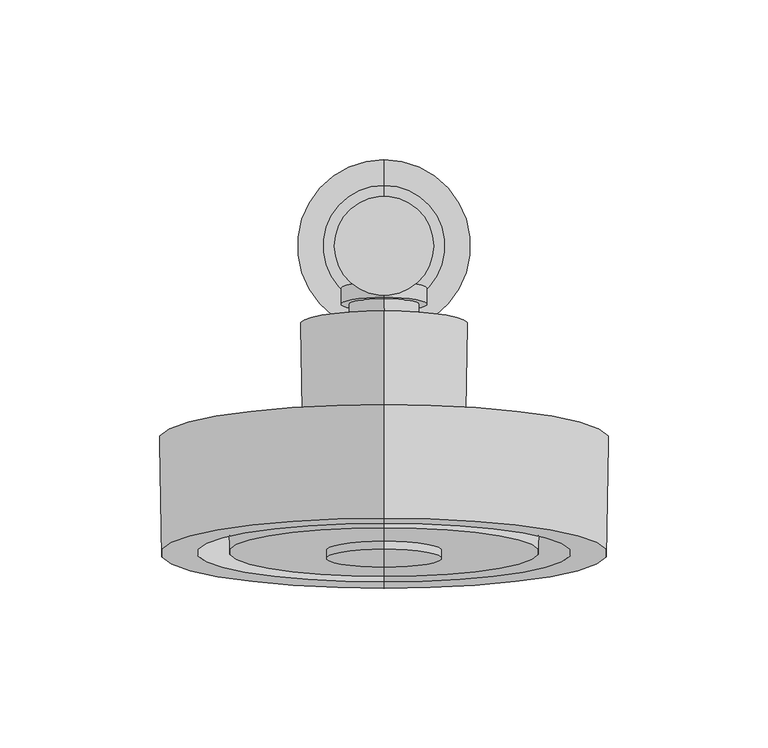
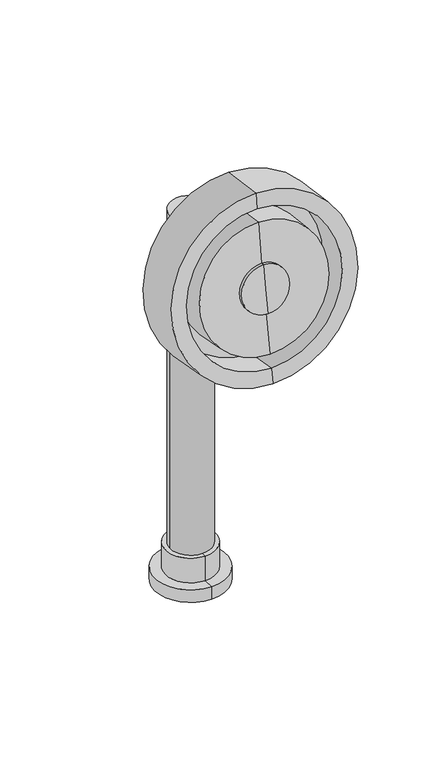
"""IFC4 building model written with IfcOpenShell, lengths in millimetres: flow terminal geometry, Chuveiro : Chuveiro."""

import ifcopenshell
import ifcopenshell.guid

model = None  # the IFC model being written
_history = None  # IfcOwnerHistory: only IFC2X3 demands one
_inside = {}  # id of a spatial element -> (the spatial element, [elements in it])
_under = {}  # id of a project, library or spatial element -> (it, [spatial elements below it])
_declared = {}  # id of a project -> (the project, [libraries it declares])
_typed = {}  # id of a type object -> (the type object, [elements of that type])
_made_of = {}  # id of a material, layer set ... -> (it, [elements and type objects made of it])


def new_model(schema):
    """Start an empty IFC model of exactly this schema.

    Asked for "IFC4X3", IfcOpenShell would pick the latest addendum, in which some entities
    have other attributes; the version numbers below select the first issue.
    IFC2X3 requires an IfcOwnerHistory on every rooted entity: one is made here for all.
    """
    global model, _history
    if schema == "IFC4X3":
        model = ifcopenshell.file(schema_version=(4, 3, 0, 0))
    else:
        model = ifcopenshell.file(schema=schema)
    _inside.clear()
    _under.clear()
    _declared.clear()
    _typed.clear()
    _made_of.clear()
    _history = None
    if model.schema == "IFC2X3":
        org = make("IfcOrganization", Name="unknown")
        user = make(
            "IfcPersonAndOrganization",
            ThePerson=make("IfcPerson", FamilyName="unknown"),
            TheOrganization=org,
        )
        app = make(
            "IfcApplication",
            ApplicationDeveloper=org,
            Version="unknown",
            ApplicationFullName="unknown",
            ApplicationIdentifier="unknown",
        )
        _history = make(
            "IfcOwnerHistory",
            OwningUser=user,
            OwningApplication=app,
            ChangeAction="ADDED",
            CreationDate=0,
        )
    return model


def make(cls, **values):
    """One entity of the class cls with the attributes given. An attribute that is None is left unset."""
    return model.create_entity(
        cls, **{name: value for name, value in values.items() if value is not None}
    )


def rooted(cls, **values):
    """An entity with a GlobalId (a new one), such as an element, a storey or a relation."""
    return make(cls, GlobalId=ifcopenshell.guid.new(), OwnerHistory=_history, **values)


def si_unit(unit_type, name, prefix=None):
    """IfcSIUnit, for example si_unit("LENGTHUNIT", "METRE", prefix="MILLI")."""
    return make("IfcSIUnit", UnitType=unit_type, Prefix=prefix, Name=name)


def assignment(units):
    """IfcUnitAssignment: the units of a project."""
    return None if units is None else make("IfcUnitAssignment", Units=units)


def point(xyz):
    """IfcCartesianPoint."""
    return None if xyz is None else make("IfcCartesianPoint", Coordinates=xyz)


def direction(xyz):
    """IfcDirection."""
    return None if xyz is None else make("IfcDirection", DirectionRatios=xyz)


def frame(location, z_axis=None, x_axis=None):
    """IfcAxis2Placement3D, a coordinate frame: its origin and axes. An axis left out is left unset."""
    return make(
        "IfcAxis2Placement3D",
        Location=point(location),
        Axis=direction(z_axis),
        RefDirection=direction(x_axis),
    )


def frame_2d(location, x_axis=None):
    """IfcAxis2Placement2D, a coordinate frame in the plane: its origin and x axis."""
    return make(
        "IfcAxis2Placement2D", Location=point(location), RefDirection=direction(x_axis)
    )


def origin():
    """The frame at (0, 0, 0) with its axes left unset."""
    return frame((0.0, 0.0, 0.0))


def origin_2d():
    """The frame at (0, 0) in the plane with its x axis left unset."""
    return frame_2d((0.0, 0.0))


def place(relative_to, where):
    """IfcLocalPlacement: puts the frame where relative to a parent placement (None: the world)."""
    return make(
        "IfcLocalPlacement", PlacementRelTo=relative_to, RelativePlacement=where
    )


def context(
    kind, dimensions, precision=None, world=None, true_north=None, identifier=None
):
    """IfcGeometricRepresentationContext, for example the 3D "Model" context."""
    return make(
        "IfcGeometricRepresentationContext",
        ContextIdentifier=identifier,
        ContextType=kind,
        CoordinateSpaceDimension=dimensions,
        Precision=precision,
        WorldCoordinateSystem=world,
        TrueNorth=true_north,
    )


def project(units=None, contexts=None):
    """IfcProject with its units and contexts."""
    return rooted(
        "IfcProject",
        Name="project",
        RepresentationContexts=contexts,
        UnitsInContext=assignment(units),
    )


def spatial(cls, under=None, at=None, **own):
    """A site, building, storey or space (cls), placed at a placement, below another one or the project."""
    s = rooted(cls, ObjectPlacement=at, **own)
    if under is not None:
        _under.setdefault(under.id(), (under, []))[1].append(s)
    return s


def polyline(points):
    """IfcPolyline through the points."""
    return make("IfcPolyline", Points=[point(p) for p in points])


def circle_curve(where, radius):
    """IfcCircle in the frame where."""
    return make("IfcCircle", Position=where, Radius=radius)


def trimmed(basis, trim1, trim2, sense, master):
    """IfcTrimmedCurve: the piece of a basis curve between two trims."""
    return make(
        "IfcTrimmedCurve",
        BasisCurve=basis,
        Trim1=trim1,
        Trim2=trim2,
        SenseAgreement=sense,
        MasterRepresentation=master,
    )


def segment(curve, same_sense, transition):
    """IfcCompositeCurveSegment."""
    return make(
        "IfcCompositeCurveSegment",
        Transition=transition,
        SameSense=same_sense,
        ParentCurve=curve,
    )


def composite_curve(segments, self_intersect=None):
    """IfcCompositeCurve: segments joined end to end."""
    return make("IfcCompositeCurve", Segments=segments, SelfIntersect=self_intersect)


def outline(outer, holes=None, kind="AREA"):
    """IfcArbitraryClosedProfileDef: a profile drawn as a closed curve; with holes, ...WithVoids."""
    if holes is None:
        return make("IfcArbitraryClosedProfileDef", ProfileType=kind, OuterCurve=outer)
    return make(
        "IfcArbitraryProfileDefWithVoids",
        ProfileType=kind,
        OuterCurve=outer,
        InnerCurves=holes,
    )


def extrude(swept, where, along, depth):
    """IfcExtrudedAreaSolid: the profile swept, set in the frame where, extruded along a direction by depth."""
    return make(
        "IfcExtrudedAreaSolid",
        SweptArea=swept,
        Position=where,
        ExtrudedDirection=direction(along),
        Depth=depth,
    )


def shape(context_of_items, identifier, shape_type, items):
    """IfcShapeRepresentation: the items that make up one representation, for example the "Body"."""
    return make(
        "IfcShapeRepresentation",
        ContextOfItems=context_of_items,
        RepresentationIdentifier=identifier,
        RepresentationType=shape_type,
        Items=items,
    )


def source(mapping_origin, context_of_items, identifier, shape_type, items):
    """IfcRepresentationMap: a shape defined once, which mapped items show again and again."""
    return make(
        "IfcRepresentationMap",
        MappingOrigin=mapping_origin,
        MappedRepresentation=shape(context_of_items, identifier, shape_type, items),
    )


def transform(
    local_origin,
    x_axis=None,
    y_axis=None,
    z_axis=None,
    scale=None,
    scale2=None,
    scale3=None,
    uniform=True,
):
    """IfcCartesianTransformationOperator3D, or its non-uniform kind. x_axis, y_axis, z_axis: its Axis1, 2, 3."""
    if uniform:
        return make(
            "IfcCartesianTransformationOperator3D",
            Axis1=direction(x_axis),
            Axis2=direction(y_axis),
            LocalOrigin=point(local_origin),
            Scale=scale,
            Axis3=direction(z_axis),
        )
    return make(
        "IfcCartesianTransformationOperator3DnonUniform",
        Axis1=direction(x_axis),
        Axis2=direction(y_axis),
        LocalOrigin=point(local_origin),
        Scale=scale,
        Axis3=direction(z_axis),
        Scale2=scale2,
        Scale3=scale3,
    )


def mapped(mapping_source, mapping_target):
    """IfcMappedItem: shows the shape of a source again, moved by a transform."""
    return make(
        "IfcMappedItem", MappingSource=mapping_source, MappingTarget=mapping_target
    )


def made_of(thing, what):
    """Note that an element or type object is made of a material, layer set ...; save() writes the relation."""
    if what is not None:
        _made_of.setdefault(what.id(), (what, []))[1].append(thing)
    return thing


def element(
    cls,
    number,
    at=None,
    inside=None,
    cuts=None,
    type_object=None,
    material=None,
    context=None,
    identifier="Body",
    shape_type=None,
    held_by="IfcProductDefinitionShape",
    body=None,
    shapes=None,
    **own,
):
    """One element of the class cls, such as IfcWall. Its Tag is "e" and its number.

    at: its placement. inside: the storey or other place that contains it. cuts: it is an
    opening in that element (IfcRelVoidsElement). A single representation is given by context,
    identifier, shape_type and body (its items); several are given by shapes. held_by: the class
    of the entity that holds the representations. save() writes the other relations.
    """
    e = rooted(cls, Tag="e%d" % number, ObjectPlacement=at, **own)
    if body is not None:
        shapes = [shape(context, identifier, shape_type, body)]
    if shapes is not None:
        e.Representation = make(held_by, Representations=shapes)
    if inside is not None:
        _inside.setdefault(inside.id(), (inside, []))[1].append(e)
    if cuts is not None:
        rooted(
            "IfcRelVoidsElement", RelatingBuildingElement=cuts, RelatedOpeningElement=e
        )
    if type_object is not None:
        _typed.setdefault(type_object.id(), (type_object, []))[1].append(e)
    return made_of(e, material)


def aggregate(whole, parts):
    """IfcRelAggregates: a whole, such as a stair, and the parts it consists of."""
    return rooted("IfcRelAggregates", RelatingObject=whole, RelatedObjects=parts)


def save(model, path):
    """Write the relations noted so far, then the file.

    IfcRelAggregates (storeys below a building ...), IfcRelContainedInSpatialStructure (elements
    in a storey), IfcRelDefinesByType, IfcRelAssociatesMaterial and IfcRelDeclares: one each for
    every whole, place, type object, material and project.
    """
    for whole, parts in _under.values():
        aggregate(whole, parts)
    for where, things in _inside.values():
        rooted(
            "IfcRelContainedInSpatialStructure",
            RelatedElements=things,
            RelatingStructure=where,
        )
    for kind, things in _typed.values():
        rooted("IfcRelDefinesByType", RelatedObjects=things, RelatingType=kind)
    for what, things in _made_of.values():
        rooted("IfcRelAssociatesMaterial", RelatedObjects=things, RelatingMaterial=what)
    for by, libraries in _declared.values():
        rooted("IfcRelDeclares", RelatingContext=by, RelatedDefinitions=libraries)
    model.write(path)


def plane_surface(at):
    """IfcPlane: the flat surface through the origin of the frame at, square to its z axis."""
    return make("IfcPlane", Position=at)


def cylinder_surface(at, radius):
    """IfcCylindricalSurface: all points at the distance radius from the z axis of the frame at."""
    return make("IfcCylindricalSurface", Position=at, Radius=radius)


def revolved_surface(curve, axis_point, axis_direction):
    """IfcSurfaceOfRevolution: the curve turned about the line through axis_point along axis_direction."""
    return make(
        "IfcSurfaceOfRevolution",
        SweptCurve=make("IfcArbitraryOpenProfileDef", ProfileType="CURVE", Curve=curve),
        AxisPosition=make("IfcAxis1Placement", Location=point(axis_point), Axis=direction(axis_direction)),
    )


def advanced_brep(points, edges, surfaces, faces):
    """IfcAdvancedBrep: a solid bounded by faces that lie on surfaces and meet in shared edges.

    An edge is (start, end): straight between two places in points (the first is 0);
    or (start, end, curve); or (start, end, curve, False) where it runs against its curve.
    A face is (place in surfaces, loops), or (place, loops, False) where it looks against
    its surface's normal. A loop lists edges by number (the first is 1), with a minus sign
    where the edge is run from its end to its start. The first loop is the outer one.
    """
    corners = [point(p) for p in points]
    vertices = [make("IfcVertexPoint", VertexGeometry=c) for c in corners]
    made = []
    for start, end, *more in edges:
        made.append(
            make(
                "IfcEdgeCurve",
                EdgeStart=vertices[start],
                EdgeEnd=vertices[end],
                EdgeGeometry=more[0] if more else make("IfcPolyline", Points=[corners[start], corners[end]]),
                SameSense=more[1] if len(more) > 1 else True,
            )
        )
    hull = []
    for where, loops, *sense in faces:
        bounds = []
        for j, loop in enumerate(loops):
            ring = [make("IfcOrientedEdge", EdgeElement=made[abs(k) - 1], Orientation=k > 0) for k in loop]
            bounds.append(
                make(
                    "IfcFaceOuterBound" if j == 0 else "IfcFaceBound",
                    Bound=make("IfcEdgeLoop", EdgeList=ring),
                    Orientation=True,
                )
            )
        hull.append(make("IfcAdvancedFace", Bounds=bounds, FaceSurface=surfaces[where], SameSense=sense[0] if sense else True))
    return make("IfcAdvancedBrep", Outer=make("IfcClosedShell", CfsFaces=hull))


def flow_terminal_20a74c16(model_context):
    return source(origin(), model_context, "Body", "SolidModel", [
        extrude(outline(composite_curve([segment(trimmed(circle_curve(origin_2d(), 15.5187607), [point((-15.5187607, 0.0))], [point((15.5187607, 0.0))], False, "CARTESIAN"), True, "CONTINUOUS"), segment(trimmed(circle_curve(origin_2d(), 15.5187607), [point((15.5187607, 0.0))], [point((-15.5187607, 0.0))], False, "CARTESIAN"), True, "CONTINUOUS")], self_intersect=False)), frame((0.0, 0.0, 29.5), z_axis=(0.0, 0.0, 1.0), x_axis=(1.0, 0.0, 0.0)), (0.0, 0.0, 1.0), 264.783134),
        advanced_brep(
        [(0.0, -95.1040341, 307.3807444), (0.0, -100.737278, 271.813842), (0.0, -97.6102448, 289.5481289), (0.0, -92.6191061, 307.0315106), (0.0, -98.2660519, 271.3780982), (0.0, -85.3837645, 358.5136417), (0.0, -107.2936865, 220.1798384), (0.0, -105.3062413, 231.4512002), (0.0, -86.9766341, 347.1797852), (0.0, -49.7433718, 353.5047111), (0.0, -71.8498141, 213.9301274), (0.0, -56.0065285, 308.9400351), (0.0, -64.0351879, 258.2490748), (0.0, -20.3568781, 303.9298035), (0.0, -28.5821088, 251.9977404), (0.0, -22.5013907, 288.6708029), (0.0, -25.9063711, 267.1726031), (0.0, -16.5875824, 287.7341477), (0.0, -19.9925628, 266.2359479), (0.0, -16.1871919, 290.2621139), (0.0, -20.3929533, 263.7079817), (0.0, -11.2678388, 289.5711425), (0.0, -15.5008485, 262.8449708), (0.0, -13.1500279, 276.1709447), (0.0, -88.3680691, 337.2792105), (0.0, -103.5701288, 241.2971833), (0.0, -61.8640112, 333.5543081), (0.0, -77.2122137, 236.6495717), (0.0, -60.4730671, 343.4570994), (0.0, -78.949478, 226.8016322)],
        [
            (0, 1, circle_curve(frame((0.0, -97.9206561, 289.5972932), z_axis=(0.0, -0.9876883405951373, 0.15643446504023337), x_axis=(0.0, -0.15643446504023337, -0.9876883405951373)), 18.0051242)),
            (1, 2),
            (2, 0),
            (1, 0, circle_curve(frame((0.0, -97.9206561, 289.5972932), z_axis=(0.0, -0.9876883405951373, 0.15643446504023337), x_axis=(0.0, -0.15643446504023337, -0.9876883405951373)), 18.0051242)),
            (3, 4, circle_curve(frame((0.0, -95.442579, 289.2048044), z_axis=(0.0, -0.9876883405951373, 0.15643446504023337), x_axis=(0.0, -0.15643446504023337, -0.9876883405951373)), 18.0489183)),
            (4, 1),
            (0, 3),
            (4, 3, circle_curve(frame((0.0, -95.442579, 289.2048044), z_axis=(0.0, -0.9876883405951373, 0.15643446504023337), x_axis=(0.0, -0.15643446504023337, -0.9876883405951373)), 18.0489183)),
            (5, 6, circle_curve(frame((0.0, -96.3387255, 289.34674), z_axis=(0.0, -0.9876883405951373, 0.15643446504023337), x_axis=(0.0, -0.15643446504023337, -0.9876883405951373)), 70.0290758)),
            (6, 7),
            (7, 8, circle_curve(frame((0.0, -96.1414377, 289.3154927), z_axis=(0.0, 0.9876883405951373, -0.15643446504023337), x_axis=(0.0, -0.15643446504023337, -0.9876883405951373)), 58.5855782)),
            (8, 5),
            (6, 5, circle_curve(frame((0.0, -96.3387255, 289.34674), z_axis=(0.0, -0.9876883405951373, 0.15643446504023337), x_axis=(0.0, -0.15643446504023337, -0.9876883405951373)), 70.0290758)),
            (8, 7, circle_curve(frame((0.0, -96.1414377, 289.3154927), z_axis=(0.0, 0.9876883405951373, -0.15643446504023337), x_axis=(0.0, -0.15643446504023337, -0.9876883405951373)), 58.5855782)),
            (9, 10, circle_curve(frame((0.0, -60.7965929, 283.7174192), z_axis=(0.0, -0.9876883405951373, 0.15643446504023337), x_axis=(0.0, -0.15643446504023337, -0.9876883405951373)), 70.6571992)),
            (10, 6),
            (5, 9),
            (10, 9, circle_curve(frame((0.0, -60.7965929, 283.7174192), z_axis=(0.0, -0.9876883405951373, 0.15643446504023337), x_axis=(0.0, -0.15643446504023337, -0.9876883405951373)), 70.6571992)),
            (11, 12, circle_curve(frame((0.0, -60.0208582, 283.5945549), z_axis=(0.0, -0.9876883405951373, 0.15643446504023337), x_axis=(0.0, -0.15643446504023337, -0.9876883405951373)), 25.6614148)),
            (12, 10),
            (9, 11),
            (12, 11, circle_curve(frame((0.0, -60.0208582, 283.5945549), z_axis=(0.0, -0.9876883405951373, 0.15643446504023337), x_axis=(0.0, -0.15643446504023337, -0.9876883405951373)), 25.6614148)),
            (13, 14, circle_curve(frame((0.0, -24.4694934, 277.9637719), z_axis=(0.0, -0.9876883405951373, 0.15643446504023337), x_axis=(0.0, -0.15643446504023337, -0.9876883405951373)), 26.2897014)),
            (14, 12),
            (11, 13),
            (14, 13, circle_curve(frame((0.0, -24.4694934, 277.9637719), z_axis=(0.0, -0.9876883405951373, 0.15643446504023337), x_axis=(0.0, -0.15643446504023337, -0.9876883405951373)), 26.2897014)),
            (15, 16, circle_curve(frame((0.0, -24.2038809, 277.921703), z_axis=(0.0, -0.9876883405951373, 0.15643446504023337), x_axis=(0.0, -0.15643446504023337, -0.9876883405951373)), 10.8830888)),
            (16, 14),
            (13, 15),
            (16, 15, circle_curve(frame((0.0, -24.2038809, 277.921703), z_axis=(0.0, -0.9876883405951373, 0.15643446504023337), x_axis=(0.0, -0.15643446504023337, -0.9876883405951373)), 10.8830888)),
            (17, 18, circle_curve(frame((0.0, -18.2900726, 276.9850478), z_axis=(0.0, -0.9876883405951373, 0.15643446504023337), x_axis=(0.0, -0.15643446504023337, -0.9876883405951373)), 10.8830888)),
            (18, 16),
            (15, 17),
            (18, 17, circle_curve(frame((0.0, -18.2900726, 276.9850478), z_axis=(0.0, -0.9876883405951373, 0.15643446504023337), x_axis=(0.0, -0.15643446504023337, -0.9876883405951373)), 10.8830888)),
            (19, 20, circle_curve(frame((0.0, -18.2900726, 276.9850478), z_axis=(0.0, -0.9876883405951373, 0.15643446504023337), x_axis=(0.0, -0.15643446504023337, -0.9876883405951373)), 13.4425664)),
            (20, 18),
            (17, 19),
            (20, 19, circle_curve(frame((0.0, -18.2900726, 276.9850478), z_axis=(0.0, -0.9876883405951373, 0.15643446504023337), x_axis=(0.0, -0.15643446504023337, -0.9876883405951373)), 13.4425664)),
            (21, 22, circle_curve(frame((0.0, -13.3843437, 276.2080567), z_axis=(0.0, -0.9876883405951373, 0.15643446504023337), x_axis=(0.0, -0.15643446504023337, -0.9876883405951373)), 13.5296584)),
            (22, 20),
            (19, 21),
            (22, 21, circle_curve(frame((0.0, -13.3843437, 276.2080567), z_axis=(0.0, -0.9876883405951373, 0.15643446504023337), x_axis=(0.0, -0.15643446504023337, -0.9876883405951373)), 13.5296584)),
            (23, 22),
            (21, 23),
            (24, 25, circle_curve(frame((0.0, -95.969099, 289.2881969), z_axis=(0.0, -0.9876883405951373, 0.15643446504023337), x_axis=(0.0, -0.15643446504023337, -0.9876883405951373)), 48.5892276)),
            (25, 4),
            (3, 24),
            (25, 24, circle_curve(frame((0.0, -95.969099, 289.2881969), z_axis=(0.0, -0.9876883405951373, 0.15643446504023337), x_axis=(0.0, -0.15643446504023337, -0.9876883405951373)), 48.5892276)),
            (26, 27, circle_curve(frame((0.0, -69.5381125, 285.1019399), z_axis=(0.0, -0.9876883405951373, 0.15643446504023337), x_axis=(0.0, -0.15643446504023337, -0.9876883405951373)), 49.0563331)),
            (27, 25),
            (24, 26),
            (27, 26, circle_curve(frame((0.0, -69.5381125, 285.1019399), z_axis=(0.0, -0.9876883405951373, 0.15643446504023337), x_axis=(0.0, -0.15643446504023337, -0.9876883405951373)), 49.0563331)),
            (28, 29, circle_curve(frame((0.0, -69.7112726, 285.1293658), z_axis=(0.0, -0.9876883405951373, 0.15643446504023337), x_axis=(0.0, -0.15643446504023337, -0.9876883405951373)), 59.0547961)),
            (29, 27),
            (26, 28),
            (29, 28, circle_curve(frame((0.0, -69.7112726, 285.1293658), z_axis=(0.0, -0.9876883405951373, 0.15643446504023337), x_axis=(0.0, -0.15643446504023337, -0.9876883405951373)), 59.0547961)),
            (7, 29),
            (28, 8),
        ],
        [
            revolved_surface(polyline([(0.0, -97.6102448, 289.5481289), (0.0, -100.737278, 271.813842)]), (0.0, -39.9512577, 280.4158425), (0.0, 0.9876883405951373, -0.15643446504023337)),
            revolved_surface(polyline([(0.0, -100.737278, 271.813842), (0.0, -98.2660519, 271.3780982)]), (0.0, -39.9512577, 280.4158425), (0.0, 0.9876883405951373, -0.15643446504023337)),
            revolved_surface(polyline([(0.0, -105.3062413, 231.4512002), (0.0, -107.2936865, 220.1798384)]), (0.0, -39.9512577, 280.4158425), (0.0, 0.9876883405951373, -0.15643446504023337)),
            revolved_surface(polyline([(0.0, -107.2936865, 220.1798384), (0.0, -71.8498141, 213.9301274)]), (0.0, -39.9512577, 280.4158425), (0.0, 0.9876883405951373, -0.15643446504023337)),
            revolved_surface(polyline([(0.0, -71.8498141, 213.9301274), (0.0, -64.0351879, 258.2490748)]), (0.0, -39.9512577, 280.4158425), (0.0, 0.9876883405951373, -0.15643446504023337)),
            revolved_surface(polyline([(0.0, -64.0351879, 258.2490748), (0.0, -28.5821088, 251.9977404)]), (0.0, -39.9512577, 280.4158425), (0.0, 0.9876883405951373, -0.15643446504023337)),
            revolved_surface(polyline([(0.0, -28.5821088, 251.9977404), (0.0, -25.9063711, 267.1726031)]), (0.0, -39.9512577, 280.4158425), (0.0, 0.9876883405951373, -0.15643446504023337)),
            cylinder_surface(frame((0.0, -39.9512577, 280.4158425), z_axis=(0.0, 0.9876883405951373, -0.15643446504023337), x_axis=(0.0, -0.15643446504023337, -0.9876883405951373)), 10.8830888),
            plane_surface(frame((0.0, -18.2900726, 276.9850478), z_axis=(0.0, -0.9876883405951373, 0.15643446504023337), x_axis=(0.0, -0.15643446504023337, -0.9876883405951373))),
            revolved_surface(polyline([(0.0, -20.3929533, 263.7079817), (0.0, -15.5008485, 262.8449708)]), (0.0, -39.9512577, 280.4158425), (0.0, 0.9876883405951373, -0.15643446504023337)),
            revolved_surface(polyline([(0.0, -15.5008485, 262.8449708), (0.0, -13.1500279, 276.1709447)]), (0.0, -39.9512577, 280.4158425), (0.0, 0.9876883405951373, -0.15643446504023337)),
            revolved_surface(polyline([(0.0, -98.2660519, 271.3780982), (0.0, -103.5701288, 241.2971833)]), (0.0, -39.9512577, 280.4158425), (0.0, 0.9876883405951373, -0.15643446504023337)),
            revolved_surface(polyline([(0.0, -103.5701288, 241.2971833), (0.0, -77.2122137, 236.6495717)]), (0.0, -39.9512577, 280.4158425), (0.0, 0.9876883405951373, -0.15643446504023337)),
            revolved_surface(polyline([(0.0, -77.2122137, 236.6495717), (0.0, -78.949478, 226.8016322)]), (0.0, -39.9512577, 280.4158425), (0.0, 0.9876883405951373, -0.15643446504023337)),
            revolved_surface(polyline([(0.0, -78.949478, 226.8016322), (0.0, -105.3062413, 231.4512002)]), (0.0, -39.9512577, 280.4158425), (0.0, 0.9876883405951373, -0.15643446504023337)),
        ],
        [
            (0, [[1, 2, 3]]),
            (0, [[4, -3, -2]]),
            (1, [[5, 6, -1, 7]]),
            (1, [[8, -7, -4, -6]]),
            (2, [[9, 10, 11, 12]]),
            (2, [[13, -12, 14, -10]]),
            (3, [[15, 16, -9, 17]]),
            (3, [[18, -17, -13, -16]]),
            (4, [[19, 20, -15, 21]]),
            (4, [[22, -21, -18, -20]]),
            (5, [[23, 24, -19, 25]]),
            (5, [[26, -25, -22, -24]]),
            (6, [[27, 28, -23, 29]]),
            (6, [[30, -29, -26, -28]]),
            (7, [[31, 32, -27, 33]]),
            (7, [[34, -33, -30, -32]]),
            (8, [[35, 36, -31, 37]]),
            (8, [[38, -37, -34, -36]]),
            (9, [[39, 40, -35, 41]]),
            (9, [[42, -41, -38, -40]]),
            (10, [[43, -39, 44]]),
            (10, [[-44, -42, -43]]),
            (11, [[45, 46, -5, 47]]),
            (11, [[48, -47, -8, -46]]),
            (12, [[49, 50, -45, 51]]),
            (12, [[52, -51, -48, -50]]),
            (13, [[53, 54, -49, 55]]),
            (13, [[56, -55, -52, -54]]),
            (14, [[-11, 57, -53, 58]]),
            (14, [[-14, -58, -56, -57]]),
        ],
    ),
        advanced_brep(
        [(0.0, 18.9933088, 29.5), (0.0, -18.9933088, 29.5), (0.0, 0.0, 29.5), (0.0, 18.9933088, 10.0), (0.0, -18.9933088, 10.0), (0.0, 27.0402244, 10.0), (0.0, -27.0402244, 10.0), (0.0, 27.0402244, 0.0), (0.0, -27.0402244, 0.0), (0.0, 0.0, 0.0)],
        [
            (0, 1, circle_curve(frame((0.0, 0.0, 29.5), z_axis=(0.0, 0.0, 1.0), x_axis=(0.0, -1.0, 0.0)), 18.9933088)),
            (1, 2),
            (2, 0),
            (1, 0, circle_curve(frame((0.0, 0.0, 29.5), z_axis=(0.0, 0.0, 1.0), x_axis=(0.0, -1.0, 0.0)), 18.9933088)),
            (3, 4, circle_curve(frame((0.0, 0.0, 10.0), z_axis=(0.0, 0.0, 1.0), x_axis=(0.0, -1.0, 0.0)), 18.9933088)),
            (4, 1),
            (0, 3),
            (4, 3, circle_curve(frame((0.0, 0.0, 10.0), z_axis=(0.0, 0.0, 1.0), x_axis=(0.0, -1.0, 0.0)), 18.9933088)),
            (5, 6, circle_curve(frame((0.0, 0.0, 10.0), z_axis=(0.0, 0.0, 1.0), x_axis=(0.0, -1.0, 0.0)), 27.0402244)),
            (6, 4),
            (3, 5),
            (6, 5, circle_curve(frame((0.0, 0.0, 10.0), z_axis=(0.0, 0.0, 1.0), x_axis=(0.0, -1.0, 0.0)), 27.0402244)),
            (7, 8, circle_curve(frame((0.0, 0.0, 0.0), z_axis=(0.0, 0.0, 1.0), x_axis=(0.0, -1.0, 0.0)), 27.0402244)),
            (8, 6),
            (5, 7),
            (8, 7, circle_curve(frame((0.0, 0.0, 0.0), z_axis=(0.0, 0.0, 1.0), x_axis=(0.0, -1.0, 0.0)), 27.0402244)),
            (9, 8),
            (7, 9),
        ],
        [
            plane_surface(frame((0.0, 0.0, 29.5), z_axis=(0.0, 0.0, 1.0), x_axis=(0.0, -1.0, 0.0))),
            cylinder_surface(frame((0.0, 0.0, 0.0), z_axis=(0.0, 0.0, -1.0), x_axis=(0.0, -1.0, 0.0)), 18.9933088),
            plane_surface(frame((0.0, 0.0, 10.0), z_axis=(0.0, 0.0, 1.0), x_axis=(0.0, -1.0, 0.0))),
            cylinder_surface(frame((0.0, 0.0, 0.0), z_axis=(0.0, 0.0, -1.0), x_axis=(0.0, -1.0, 0.0)), 27.0402244),
            plane_surface(frame((0.0, 0.0, 0.0), z_axis=(0.0, 0.0, -1.0), x_axis=(0.0, -1.0, 0.0))),
        ],
        [
            (0, [[1, 2, 3]]),
            (0, [[4, -3, -2]]),
            (1, [[5, 6, -1, 7]]),
            (1, [[8, -7, -4, -6]]),
            (2, [[9, 10, -5, 11]]),
            (2, [[12, -11, -8, -10]]),
            (3, [[13, 14, -9, 15]]),
            (3, [[16, -15, -12, -14]]),
            (4, [[17, -13, 18]]),
            (4, [[-18, -16, -17]]),
        ],
    ),
    ])


if __name__ == "__main__":
    model = new_model("IFC4")
    model_context = context("Model", 3, world=origin())
    ifc_project = project(units=[si_unit("LENGTHUNIT", "METRE", prefix="MILLI")], contexts=[model_context])
    site = spatial("IfcSite", under=ifc_project)
    building = spatial("IfcBuilding", under=site)
    placement = place(None, origin())
    flow_terminal_shape = flow_terminal_20a74c16(model_context)
    element("IfcFlowTerminal", 1, ObjectType="Chuveiro : Chuveiro", at=placement, inside=building, context=model_context, shape_type="MappedRepresentation", body=[
        mapped(flow_terminal_shape, transform((0.0, 0.0, 0.0), x_axis=(1.0, 0.0, 0.0), y_axis=(0.0, 1.0, 0.0), z_axis=(0.0, 0.0, 1.0))),
    ])
    save(model, "model.ifc")
